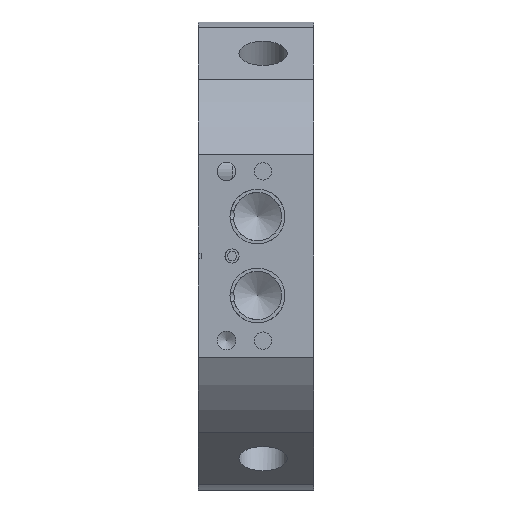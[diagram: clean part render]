
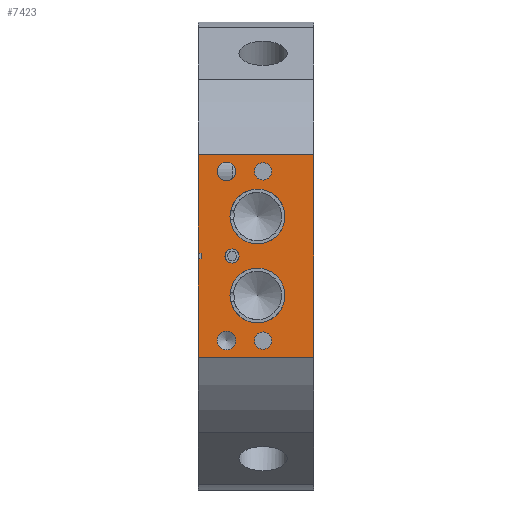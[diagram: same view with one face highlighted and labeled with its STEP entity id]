
A CAD part, left-side view. The second image highlights one B-rep face of the part: STEP entity #7423.
In plain terms, the highlighted planar face has unit normal (-1, 0, 0).
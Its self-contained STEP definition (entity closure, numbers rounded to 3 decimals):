
#257 = VECTOR ( 'NONE', #11555, 1000. ) ;
#279 = DIRECTION ( 'NONE',  ( 0., 0., 1. ) ) ;
#319 = DIRECTION ( 'NONE',  ( -1., 0., 0. ) ) ;
#334 = CARTESIAN_POINT ( 'NONE',  ( -38.5, 9., -15. ) ) ;
#337 = CIRCLE ( 'NONE', #6764, 1.527 ) ;
#341 = DIRECTION ( 'NONE',  ( 0., 0., 1. ) ) ;
#344 = CARTESIAN_POINT ( 'NONE',  ( -38.5, 20., -0.5 ) ) ;
#357 = LINE ( 'NONE', #344, #6656 ) ;
#382 = DIRECTION ( 'NONE',  ( 0., 0., 1. ) ) ;
#404 = CARTESIAN_POINT ( 'NONE',  ( -38.5, 20.5, 18. ) ) ;
#408 = LINE ( 'NONE', #404, #5187 ) ;
#731 = CARTESIAN_POINT ( 'NONE',  ( -38.5, 0., 18. ) ) ;
#1123 = CARTESIAN_POINT ( 'NONE',  ( -38.5, 0., -18. ) ) ;
#1342 = EDGE_CURVE ( 'NONE', #10048, #10048, #2122, .T. ) ;
#1392 = CARTESIAN_POINT ( 'NONE',  ( -38.5, 20.5, -0.5 ) ) ;
#1444 = EDGE_CURVE ( 'NONE', #8729, #2128, #8362, .T. ) ;
#1532 = EDGE_CURVE ( 'NONE', #10014, #10014, #7038, .T. ) ;
#2013 = EDGE_CURVE ( 'NONE', #9960, #9960, #6570, .T. ) ;
#2122 = CIRCLE ( 'NONE', #11527, 4.864 ) ;
#2128 = VERTEX_POINT ( 'NONE', #5358 ) ;
#2472 = EDGE_CURVE ( 'NONE', #9892, #9892, #9275, .T. ) ;
#2521 = EDGE_CURVE ( 'NONE', #6537, #7786, #11109, .T. ) ;
#2634 = AXIS2_PLACEMENT_3D ( 'NONE', #9159, #9138, #9091 ) ;
#2752 = VERTEX_POINT ( 'NONE', #2988 ) ;
#2768 = DIRECTION ( 'NONE',  ( 0., 0., 1. ) ) ;
#2783 = CARTESIAN_POINT ( 'NONE',  ( -38.5, 0., 18. ) ) ;
#2836 = LINE ( 'NONE', #2783, #4821 ) ;
#2988 = CARTESIAN_POINT ( 'NONE',  ( -38.5, 20.5, 18. ) ) ;
#3098 = VERTEX_POINT ( 'NONE', #1123 ) ;
#3268 = VERTEX_POINT ( 'NONE', #731 ) ;
#3312 = CARTESIAN_POINT ( 'NONE',  ( -38.5, 20.5, -18. ) ) ;
#3660 = VECTOR ( 'NONE', #3887, 1000. ) ;
#3887 = DIRECTION ( 'NONE',  ( 0., -1., 0. ) ) ;
#3891 = CARTESIAN_POINT ( 'NONE',  ( -38.5, 20.5, 18. ) ) ;
#3903 = LINE ( 'NONE', #3891, #3660 ) ;
#3965 = DIRECTION ( 'NONE',  ( 0., 0., 1. ) ) ;
#3974 = CARTESIAN_POINT ( 'NONE',  ( -38.5, 20.5, 18. ) ) ;
#4052 = DIRECTION ( 'NONE',  ( 0., 0., -1. ) ) ;
#4061 = DIRECTION ( 'NONE',  ( 1., 0., 0. ) ) ;
#4070 = CARTESIAN_POINT ( 'NONE',  ( -38.5, 14.5, 0. ) ) ;
#4821 = VECTOR ( 'NONE', #2768, 1000. ) ;
#4905 = AXIS2_PLACEMENT_3D ( 'NONE', #6149, #6144, #6142 ) ;
#4918 = EDGE_CURVE ( 'NONE', #9609, #9609, #5350, .T. ) ;
#5064 = DIRECTION ( 'NONE',  ( 0., 0., 1. ) ) ;
#5075 = DIRECTION ( 'NONE',  ( -1., 0., 0. ) ) ;
#5077 = CARTESIAN_POINT ( 'NONE',  ( -38.5, 9., 15. ) ) ;
#5187 = VECTOR ( 'NONE', #382, 1000. ) ;
#5188 = AXIS2_PLACEMENT_3D ( 'NONE', #334, #319, #279 ) ;
#5279 = DIRECTION ( 'NONE',  ( 0., -1., 0. ) ) ;
#5292 = CARTESIAN_POINT ( 'NONE',  ( -38.5, 20.5, -18. ) ) ;
#5349 = LINE ( 'NONE', #5292, #7761 ) ;
#5350 = CIRCLE ( 'NONE', #6263, 4.864 ) ;
#5358 = CARTESIAN_POINT ( 'NONE',  ( -38.5, 20.5, 0.5 ) ) ;
#6139 = EDGE_CURVE ( 'NONE', #2128, #2752, #408, .T. ) ;
#6142 = DIRECTION ( 'NONE',  ( 0., 0., 1. ) ) ;
#6144 = DIRECTION ( 'NONE',  ( -1., 0., 0. ) ) ;
#6149 = CARTESIAN_POINT ( 'NONE',  ( -38.5, 15.5, 15. ) ) ;
#6154 = EDGE_CURVE ( 'NONE', #9208, #8729, #357, .T. ) ;
#6263 = AXIS2_PLACEMENT_3D ( 'NONE', #10601, #10584, #10561 ) ;
#6468 = EDGE_LOOP ( 'NONE', ( #10287 ) ) ;
#6537 = VERTEX_POINT ( 'NONE', #3312 ) ;
#6541 = VECTOR ( 'NONE', #3965, 1000. ) ;
#6570 = CIRCLE ( 'NONE', #4905, 1.65 ) ;
#6599 = EDGE_LOOP ( 'NONE', ( #9011, #8198, #6626, #6615, #10731, #6642, #9453, #10351 ) ) ;
#6615 = ORIENTED_EDGE ( 'NONE', *, *, #6931, .T. ) ;
#6626 = ORIENTED_EDGE ( 'NONE', *, *, #2521, .F. ) ;
#6642 = ORIENTED_EDGE ( 'NONE', *, *, #10321, .F. ) ;
#6656 = VECTOR ( 'NONE', #341, 1000. ) ;
#6764 = AXIS2_PLACEMENT_3D ( 'NONE', #5077, #5075, #5064 ) ;
#6931 = EDGE_CURVE ( 'NONE', #6537, #3098, #5349, .T. ) ;
#7000 = EDGE_LOOP ( 'NONE', ( #7705 ) ) ;
#7038 = CIRCLE ( 'NONE', #11303, 1.65 ) ;
#7162 = ORIENTED_EDGE ( 'NONE', *, *, #4918, .F. ) ;
#7226 = EDGE_LOOP ( 'NONE', ( #10994 ) ) ;
#7423 = ADVANCED_FACE ( 'NONE', ( #9483, #9459, #9437, #9387, #9368, #9350, #9320, #9300 ), #9229, .F. ) ;
#7620 = ORIENTED_EDGE ( 'NONE', *, *, #2472, .T. ) ;
#7662 = EDGE_CURVE ( 'NONE', #3098, #3268, #2836, .T. ) ;
#7705 = ORIENTED_EDGE ( 'NONE', *, *, #1532, .F. ) ;
#7753 = EDGE_LOOP ( 'NONE', ( #10366 ) ) ;
#7761 = VECTOR ( 'NONE', #5279, 1000. ) ;
#7786 = VERTEX_POINT ( 'NONE', #1392 ) ;
#7877 = EDGE_CURVE ( 'NONE', #9283, #9283, #10456, .T. ) ;
#8059 = DIRECTION ( 'NONE',  ( 0., 0., 1. ) ) ;
#8063 = DIRECTION ( 'NONE',  ( -1., 0., 0. ) ) ;
#8065 = CARTESIAN_POINT ( 'NONE',  ( -38.5, 15.5, -15. ) ) ;
#8198 = ORIENTED_EDGE ( 'NONE', *, *, #8496, .T. ) ;
#8343 = DIRECTION ( 'NONE',  ( 0., 1., 0. ) ) ;
#8345 = CARTESIAN_POINT ( 'NONE',  ( -38.5, 20., 0.5 ) ) ;
#8362 = LINE ( 'NONE', #8345, #9224 ) ;
#8398 = CARTESIAN_POINT ( 'NONE',  ( -38.5, 20., -0.5 ) ) ;
#8496 = EDGE_CURVE ( 'NONE', #9208, #7786, #11569, .T. ) ;
#8618 = DIRECTION ( 'NONE',  ( 0., 0., 1. ) ) ;
#8629 = DIRECTION ( 'NONE',  ( -1., 0., 0. ) ) ;
#8632 = CARTESIAN_POINT ( 'NONE',  ( -38.5, 10., -7. ) ) ;
#8729 = VERTEX_POINT ( 'NONE', #10651 ) ;
#8929 = CARTESIAN_POINT ( 'NONE',  ( -38.5, 9., 16.527 ) ) ;
#8937 = VERTEX_POINT ( 'NONE', #8929 ) ;
#9011 = ORIENTED_EDGE ( 'NONE', *, *, #6154, .F. ) ;
#9047 = EDGE_LOOP ( 'NONE', ( #7620 ) ) ;
#9090 = EDGE_LOOP ( 'NONE', ( #7162 ) ) ;
#9091 = DIRECTION ( 'NONE',  ( 0., 0., -1. ) ) ;
#9138 = DIRECTION ( 'NONE',  ( 1., 0., 0. ) ) ;
#9159 = CARTESIAN_POINT ( 'NONE',  ( -38.5, 20.5, 18. ) ) ;
#9180 = EDGE_LOOP ( 'NONE', ( #10993 ) ) ;
#9208 = VERTEX_POINT ( 'NONE', #8398 ) ;
#9224 = VECTOR ( 'NONE', #8343, 1000. ) ;
#9229 = PLANE ( 'NONE',  #2634 ) ;
#9272 = CARTESIAN_POINT ( 'NONE',  ( -38.5, 9., -13.473 ) ) ;
#9275 = CIRCLE ( 'NONE', #9309, 1.25 ) ;
#9283 = VERTEX_POINT ( 'NONE', #9272 ) ;
#9300 = FACE_BOUND ( 'NONE', #7753, .T. ) ;
#9309 = AXIS2_PLACEMENT_3D ( 'NONE', #4070, #4061, #4052 ) ;
#9320 = FACE_OUTER_BOUND ( 'NONE', #6599, .T. ) ;
#9350 = FACE_BOUND ( 'NONE', #7000, .T. ) ;
#9368 = FACE_BOUND ( 'NONE', #9180, .T. ) ;
#9387 = FACE_BOUND ( 'NONE', #7226, .T. ) ;
#9437 = FACE_BOUND ( 'NONE', #9090, .T. ) ;
#9453 = ORIENTED_EDGE ( 'NONE', *, *, #6139, .F. ) ;
#9459 = FACE_BOUND ( 'NONE', #6468, .T. ) ;
#9483 = FACE_BOUND ( 'NONE', #9047, .T. ) ;
#9606 = CARTESIAN_POINT ( 'NONE',  ( -38.5, 10., 11.864 ) ) ;
#9609 = VERTEX_POINT ( 'NONE', #9606 ) ;
#9883 = CARTESIAN_POINT ( 'NONE',  ( -38.5, 14.5, -1.25 ) ) ;
#9892 = VERTEX_POINT ( 'NONE', #9883 ) ;
#9956 = CARTESIAN_POINT ( 'NONE',  ( -38.5, 15.5, 16.65 ) ) ;
#9960 = VERTEX_POINT ( 'NONE', #9956 ) ;
#9988 = EDGE_CURVE ( 'NONE', #8937, #8937, #337, .T. ) ;
#10010 = CARTESIAN_POINT ( 'NONE',  ( -38.5, 15.5, -13.35 ) ) ;
#10014 = VERTEX_POINT ( 'NONE', #10010 ) ;
#10030 = CARTESIAN_POINT ( 'NONE',  ( -38.5, 10., -2.136 ) ) ;
#10048 = VERTEX_POINT ( 'NONE', #10030 ) ;
#10287 = ORIENTED_EDGE ( 'NONE', *, *, #1342, .F. ) ;
#10321 = EDGE_CURVE ( 'NONE', #2752, #3268, #3903, .T. ) ;
#10351 = ORIENTED_EDGE ( 'NONE', *, *, #1444, .F. ) ;
#10366 = ORIENTED_EDGE ( 'NONE', *, *, #2013, .F. ) ;
#10456 = CIRCLE ( 'NONE', #5188, 1.527 ) ;
#10561 = DIRECTION ( 'NONE',  ( 0., 0., 1. ) ) ;
#10584 = DIRECTION ( 'NONE',  ( -1., 0., 0. ) ) ;
#10601 = CARTESIAN_POINT ( 'NONE',  ( -38.5, 10., 7. ) ) ;
#10651 = CARTESIAN_POINT ( 'NONE',  ( -38.5, 20., 0.5 ) ) ;
#10731 = ORIENTED_EDGE ( 'NONE', *, *, #7662, .T. ) ;
#10993 = ORIENTED_EDGE ( 'NONE', *, *, #9988, .F. ) ;
#10994 = ORIENTED_EDGE ( 'NONE', *, *, #7877, .F. ) ;
#11109 = LINE ( 'NONE', #3974, #6541 ) ;
#11303 = AXIS2_PLACEMENT_3D ( 'NONE', #8065, #8063, #8059 ) ;
#11527 = AXIS2_PLACEMENT_3D ( 'NONE', #8632, #8629, #8618 ) ;
#11555 = DIRECTION ( 'NONE',  ( 0., 1., 0. ) ) ;
#11563 = CARTESIAN_POINT ( 'NONE',  ( -38.5, 20., -0.5 ) ) ;
#11569 = LINE ( 'NONE', #11563, #257 ) ;
